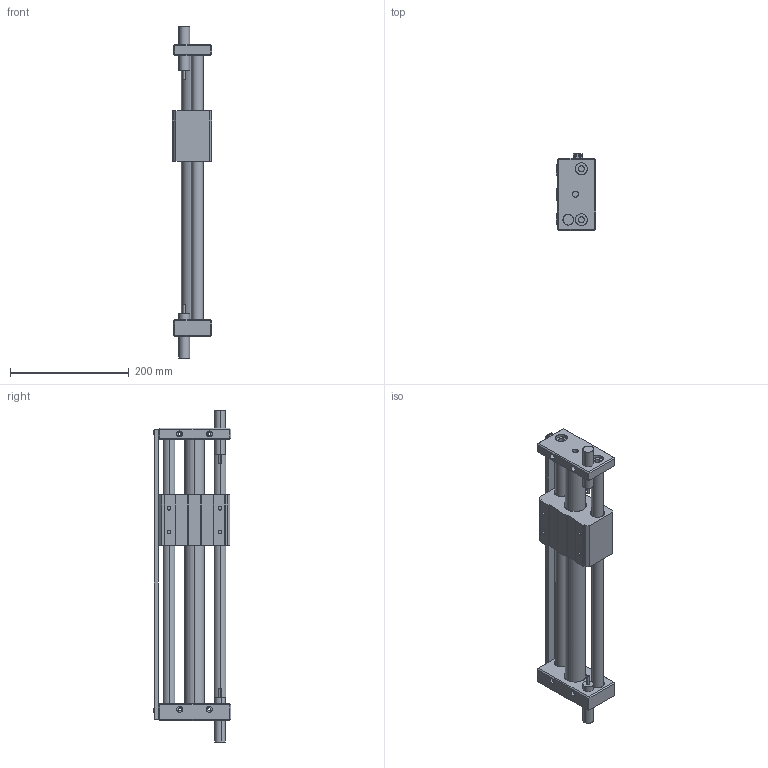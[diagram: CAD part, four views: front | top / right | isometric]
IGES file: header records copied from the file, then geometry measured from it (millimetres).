
Start section: SolidWorks IGES file using analytic representation for surfaces
Global section: file name: D:\Documents de SGA\Pieces 2D et 3D\GRU\iges\GRU 32.350.IGS; native system: SolidWorks 2010; preprocessor: SolidWorks 2010; author: SGA; date: 111216.133454; units: millimetre
Bounding box: 66 x 130.53 x 560.08 mm (x, y, z)
Surface area: 270605.1 mm2 (no closed solid volume)
Topology: 0 solids, 0 shells, 246 faces, 3800 edges, 3800 vertices
Faces by surface type: bspline 126, revolution 120
